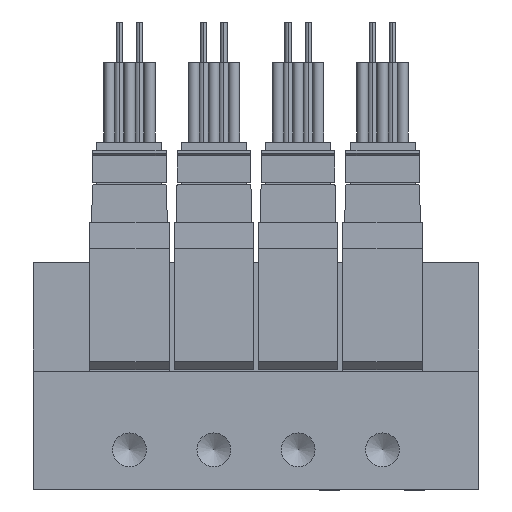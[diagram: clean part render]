
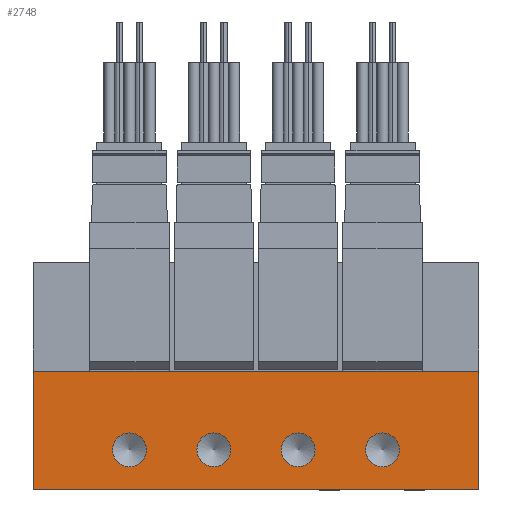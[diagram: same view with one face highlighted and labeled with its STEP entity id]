
A CAD part, front view. The second image highlights one B-rep face of the part: STEP entity #2748.
In plain terms, the highlighted planar face has unit normal (0, -1, 0).
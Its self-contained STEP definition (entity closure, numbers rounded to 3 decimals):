
#2748=ADVANCED_FACE('',(#4386,#4387,#4388,#4389,#4390),#4391,.F.);
#4386=FACE_BOUND('',#7798,.T.);
#4387=FACE_BOUND('',#7799,.T.);
#4388=FACE_BOUND('',#7800,.T.);
#4389=FACE_BOUND('',#7801,.T.);
#4390=FACE_OUTER_BOUND('',#7802,.T.);
#4391=PLANE('',#7803);
#7798=EDGE_LOOP('',(#12118));
#7799=EDGE_LOOP('',(#12119));
#7800=EDGE_LOOP('',(#12120));
#7801=EDGE_LOOP('',(#12121));
#7802=EDGE_LOOP('',(#12122,#12123,#12124,#12125));
#7803=AXIS2_PLACEMENT_3D('',#12126,#12127,#12128);
#12118=ORIENTED_EDGE('',*,*,#25052,.F.);
#12119=ORIENTED_EDGE('',*,*,#25075,.F.);
#12120=ORIENTED_EDGE('',*,*,#25076,.F.);
#12121=ORIENTED_EDGE('',*,*,#25077,.F.);
#12122=ORIENTED_EDGE('',*,*,#25078,.F.);
#12123=ORIENTED_EDGE('',*,*,#25079,.F.);
#12124=ORIENTED_EDGE('',*,*,#25080,.T.);
#12125=ORIENTED_EDGE('',*,*,#25073,.T.);
#12126=CARTESIAN_POINT('',(-55.5,0.,14.8));
#12127=DIRECTION('',(0.0,1.0,0.));
#12128=DIRECTION('',(0.0,0.,1.0));
#25052=EDGE_CURVE('',#29252,#29252,#29253,.T.);
#25073=EDGE_CURVE('',#29291,#29289,#29292,.T.);
#25075=EDGE_CURVE('',#29294,#29294,#29295,.T.);
#25076=EDGE_CURVE('',#29296,#29296,#29297,.T.);
#25077=EDGE_CURVE('',#29298,#29298,#29299,.T.);
#25078=EDGE_CURVE('',#29300,#29289,#29301,.T.);
#25079=EDGE_CURVE('',#29302,#29300,#29303,.T.);
#25080=EDGE_CURVE('',#29302,#29291,#29304,.T.);
#29252=VERTEX_POINT('',#36364);
#29253=CIRCLE('',#36365,2.1);
#29289=VERTEX_POINT('',#36414);
#29291=VERTEX_POINT('',#36417);
#29292=LINE('',#36418,#36419);
#29294=VERTEX_POINT('',#36422);
#29295=CIRCLE('',#36423,2.1);
#29296=VERTEX_POINT('',#36424);
#29297=CIRCLE('',#36425,2.1);
#29298=VERTEX_POINT('',#36426);
#29299=CIRCLE('',#36427,2.1);
#29300=VERTEX_POINT('',#36428);
#29301=LINE('',#36429,#36430);
#29302=VERTEX_POINT('',#36431);
#29303=LINE('',#36432,#36433);
#29304=LINE('',#36434,#36435);
#36364=CARTESIAN_POINT('',(-43.5,0.,2.9));
#36365=AXIS2_PLACEMENT_3D('',#46541,#46542,#46543);
#36414=CARTESIAN_POINT('',(0.0,0.0,0.0));
#36417=CARTESIAN_POINT('',(-55.5,0.0,0.0));
#36418=CARTESIAN_POINT('',(-55.5,0.0,0.0));
#36419=VECTOR('',#46576,1.0);
#36422=CARTESIAN_POINT('',(-33.0,0.,2.9));
#36423=AXIS2_PLACEMENT_3D('',#46578,#46579,#46580);
#36424=CARTESIAN_POINT('',(-22.5,0.,2.9));
#36425=AXIS2_PLACEMENT_3D('',#46581,#46582,#46583);
#36426=CARTESIAN_POINT('',(-12.0,0.,2.9));
#36427=AXIS2_PLACEMENT_3D('',#46584,#46585,#46586);
#36428=CARTESIAN_POINT('',(0.0,0.,14.8));
#36429=CARTESIAN_POINT('',(0.0,0.,14.8));
#36430=VECTOR('',#46587,1.0);
#36431=CARTESIAN_POINT('',(-55.5,0.,14.8));
#36432=CARTESIAN_POINT('',(-55.5,0.,14.8));
#36433=VECTOR('',#46588,1.0);
#36434=CARTESIAN_POINT('',(-55.5,0.,14.8));
#36435=VECTOR('',#46589,1.0);
#46541=CARTESIAN_POINT('',(-43.5,0.0,5.0));
#46542=DIRECTION('',(0.0,-1.0,0.));
#46543=DIRECTION('',(0.0,0.,-1.0));
#46576=DIRECTION('',(1.0,0.0,0.0));
#46578=CARTESIAN_POINT('',(-33.0,0.0,5.0));
#46579=DIRECTION('',(0.0,-1.0,0.));
#46580=DIRECTION('',(0.0,0.,-1.0));
#46581=CARTESIAN_POINT('',(-22.5,0.0,5.0));
#46582=DIRECTION('',(0.0,-1.0,0.));
#46583=DIRECTION('',(0.0,0.,-1.0));
#46584=CARTESIAN_POINT('',(-12.0,0.0,5.0));
#46585=DIRECTION('',(0.0,-1.0,0.));
#46586=DIRECTION('',(0.0,0.,-1.0));
#46587=DIRECTION('',(0.0,0.,-1.0));
#46588=DIRECTION('',(1.0,0.0,0.0));
#46589=DIRECTION('',(0.0,0.,-1.0));
